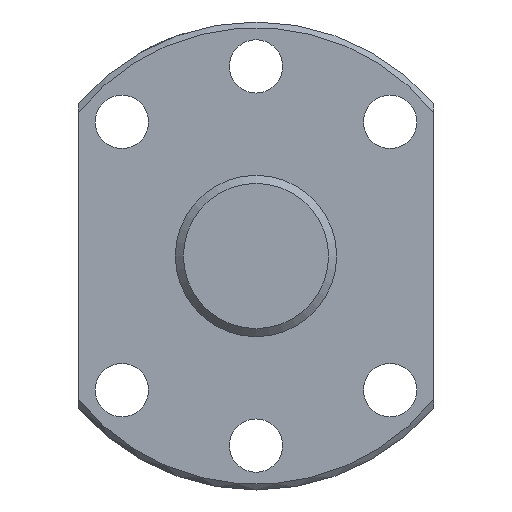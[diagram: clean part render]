
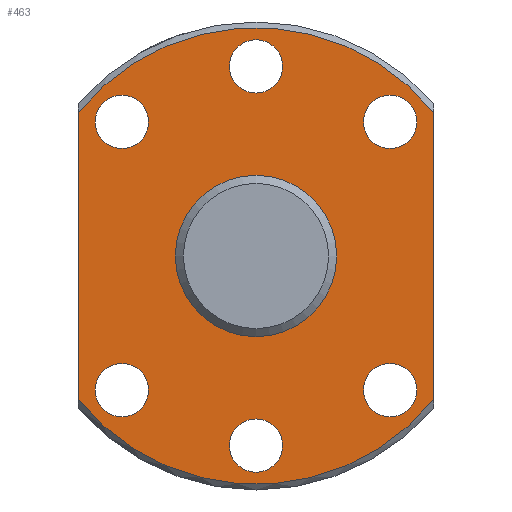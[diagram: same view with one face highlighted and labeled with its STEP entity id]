
A CAD part, left-side view. The second image highlights one B-rep face of the part: STEP entity #463.
In plain terms, the highlighted planar face has unit normal (-1, 0, 0).
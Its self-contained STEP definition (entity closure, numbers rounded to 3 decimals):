
#22=LINE('',#811,#30);
#23=LINE('',#812,#31);
#30=VECTOR('',#633,1000.);
#31=VECTOR('',#634,1000.);
#106=ORIENTED_EDGE('',*,*,#204,.F.);
#107=ORIENTED_EDGE('',*,*,#205,.F.);
#108=ORIENTED_EDGE('',*,*,#191,.F.);
#109=ORIENTED_EDGE('',*,*,#206,.F.);
#110=ORIENTED_EDGE('',*,*,#207,.T.);
#111=ORIENTED_EDGE('',*,*,#208,.T.);
#112=ORIENTED_EDGE('',*,*,#187,.F.);
#113=ORIENTED_EDGE('',*,*,#209,.T.);
#114=ORIENTED_EDGE('',*,*,#210,.T.);
#115=ORIENTED_EDGE('',*,*,#211,.T.);
#116=ORIENTED_EDGE('',*,*,#212,.T.);
#187=EDGE_CURVE('',#239,#239,#283,.F.);
#191=EDGE_CURVE('',#243,#244,#285,.T.);
#204=EDGE_CURVE('',#254,#255,#290,.T.);
#205=EDGE_CURVE('',#244,#254,#22,.T.);
#206=EDGE_CURVE('',#255,#243,#23,.T.);
#207=EDGE_CURVE('',#256,#256,#291,.T.);
#208=EDGE_CURVE('',#257,#257,#292,.T.);
#209=EDGE_CURVE('',#258,#258,#293,.T.);
#210=EDGE_CURVE('',#259,#259,#294,.T.);
#211=EDGE_CURVE('',#260,#260,#295,.T.);
#212=EDGE_CURVE('',#261,#261,#296,.T.);
#239=VERTEX_POINT('',#740);
#243=VERTEX_POINT('',#761);
#244=VERTEX_POINT('',#763);
#254=VERTEX_POINT('',#809);
#255=VERTEX_POINT('',#810);
#256=VERTEX_POINT('',#814);
#257=VERTEX_POINT('',#816);
#258=VERTEX_POINT('',#818);
#259=VERTEX_POINT('',#820);
#260=VERTEX_POINT('',#822);
#261=VERTEX_POINT('',#824);
#283=CIRCLE('',#522,10.);
#285=CIRCLE('',#525,28.3);
#290=CIRCLE('',#534,28.3);
#291=CIRCLE('',#535,3.3);
#292=CIRCLE('',#536,3.3);
#293=CIRCLE('',#537,3.3);
#294=CIRCLE('',#538,3.3);
#295=CIRCLE('',#539,3.3);
#296=CIRCLE('',#540,3.3);
#328=EDGE_LOOP('',(#106,#107,#108,#109));
#329=EDGE_LOOP('',(#110));
#330=EDGE_LOOP('',(#111));
#331=EDGE_LOOP('',(#112));
#332=EDGE_LOOP('',(#113));
#333=EDGE_LOOP('',(#114));
#334=EDGE_LOOP('',(#115));
#335=EDGE_LOOP('',(#116));
#394=FACE_BOUND('',#328,.T.);
#395=FACE_BOUND('',#329,.T.);
#396=FACE_BOUND('',#330,.T.);
#397=FACE_BOUND('',#331,.T.);
#398=FACE_BOUND('',#332,.T.);
#399=FACE_BOUND('',#333,.T.);
#400=FACE_BOUND('',#334,.T.);
#401=FACE_BOUND('',#335,.T.);
#446=PLANE('',#533);
#463=ADVANCED_FACE('',(#394,#395,#396,#397,#398,#399,#400,#401),#446,.F.);
#522=AXIS2_PLACEMENT_3D('',#739,#603,#604);
#525=AXIS2_PLACEMENT_3D('',#762,#609,#610);
#533=AXIS2_PLACEMENT_3D('',#807,#629,#630);
#534=AXIS2_PLACEMENT_3D('',#808,#631,#632);
#535=AXIS2_PLACEMENT_3D('',#813,#635,#636);
#536=AXIS2_PLACEMENT_3D('',#815,#637,#638);
#537=AXIS2_PLACEMENT_3D('',#817,#639,#640);
#538=AXIS2_PLACEMENT_3D('',#819,#641,#642);
#539=AXIS2_PLACEMENT_3D('',#821,#643,#644);
#540=AXIS2_PLACEMENT_3D('',#823,#645,#646);
#603=DIRECTION('',(1.,0.,0.));
#604=DIRECTION('',(0.,0.,-1.));
#609=DIRECTION('',(1.,0.,0.));
#610=DIRECTION('',(0.,0.,-1.));
#629=DIRECTION('',(1.,0.,0.));
#630=DIRECTION('',(0.,0.,-1.));
#631=DIRECTION('',(1.,0.,0.));
#632=DIRECTION('',(0.,0.,-1.));
#633=DIRECTION('',(0.,1.,0.));
#634=DIRECTION('',(0.,-1.,0.));
#635=DIRECTION('',(1.,0.,0.));
#636=DIRECTION('',(0.,0.,-1.));
#637=DIRECTION('',(1.,0.,0.));
#638=DIRECTION('',(0.,0.,-1.));
#639=DIRECTION('',(1.,0.,0.));
#640=DIRECTION('',(0.,0.,-1.));
#641=DIRECTION('',(1.,0.,0.));
#642=DIRECTION('',(0.,0.,-1.));
#643=DIRECTION('',(1.,0.,0.));
#644=DIRECTION('',(0.,0.,-1.));
#645=DIRECTION('',(1.,0.,0.));
#646=DIRECTION('',(0.,0.,-1.));
#739=CARTESIAN_POINT('',(0.,0.,0.));
#740=CARTESIAN_POINT('',(0.,0.,-10.));
#761=CARTESIAN_POINT('',(0.,-17.801,22.));
#762=CARTESIAN_POINT('',(0.,0.,0.));
#763=CARTESIAN_POINT('',(0.,-17.801,-22.));
#807=CARTESIAN_POINT('',(0.,0.,0.));
#808=CARTESIAN_POINT('',(0.,0.,0.));
#809=CARTESIAN_POINT('',(0.,17.801,-22.));
#810=CARTESIAN_POINT('',(0.,17.801,22.));
#811=CARTESIAN_POINT('',(0.,-34.8,-22.));
#812=CARTESIAN_POINT('',(0.,34.8,22.));
#813=CARTESIAN_POINT('',(0.,23.5,0.));
#814=CARTESIAN_POINT('',(0.,23.5,-3.3));
#815=CARTESIAN_POINT('',(0.,-23.5,0.));
#816=CARTESIAN_POINT('',(0.,-23.5,-3.3));
#817=CARTESIAN_POINT('',(0.,-16.617,16.617));
#818=CARTESIAN_POINT('',(0.,-16.617,13.317));
#819=CARTESIAN_POINT('',(0.,16.617,-16.617));
#820=CARTESIAN_POINT('',(0.,16.617,-19.917));
#821=CARTESIAN_POINT('',(0.,-16.617,-16.617));
#822=CARTESIAN_POINT('',(0.,-16.617,-19.917));
#823=CARTESIAN_POINT('',(0.,16.617,16.617));
#824=CARTESIAN_POINT('',(0.,16.617,13.317));
